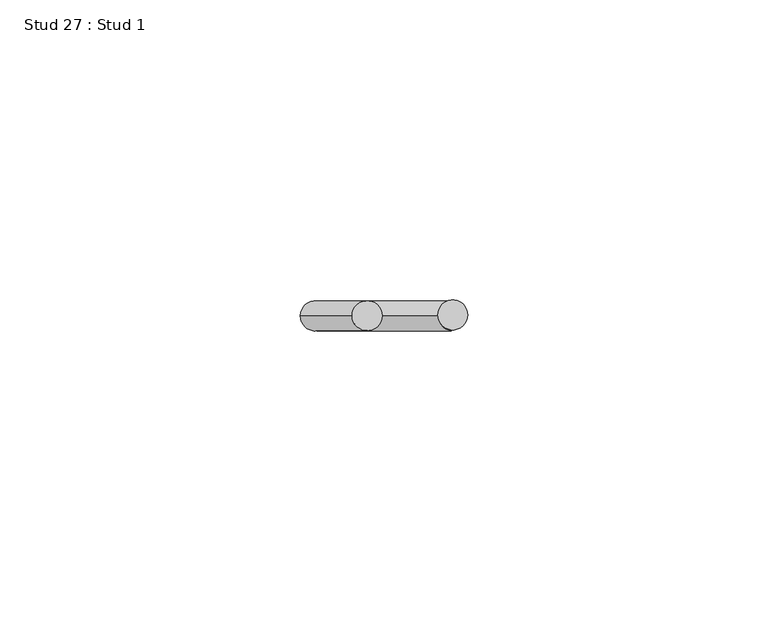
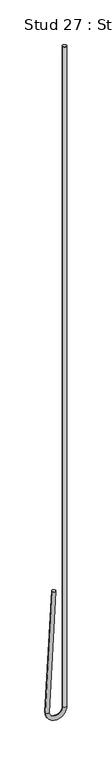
"""IFC4 building model written with IfcOpenShell, lengths in millimetres: proxy geometry, Stud 27 : Stud 1."""

from ifc_helpers import new_model, si_unit, point, frame, origin, place, context, project, spatial, circle_curve, ellipse_curve, trimmed, source, transform, mapped, element, save
from ifc_brep_helpers import plane_surface, cylinder_surface, revolved_surface, advanced_brep


def stud_27_stud_1_aca50336(model_context):
    return source(origin(), model_context, "Body", "AdvancedBrep", [
        advanced_brep(
        [(-13440.3532788, 8353.5191481, 3640.800192), (-13435.3601311, 8353.5191481, 3640.5385122), (-13448.9939451, 8353.5191481, 3475.9264558), (-13444.0007975, 8353.5191481, 3475.664776), (-13426.0920812, 8353.5191481, 3475.7956159), (-13421.0920812, 8353.5191481, 3475.7956159), (-13421.0920812, 8353.5191481, 4390.1956159), (-13426.0920812, 8353.5191481, 4390.1956159)],
        [
            (0, 1, circle_curve(frame((-13437.8567049, 8353.5191481, 3640.6693521), z_axis=(0.05233595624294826, 0.0, 0.9986295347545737), x_axis=(0.9986295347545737, 0.0, -0.05233595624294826)), 2.5)),
            (1, 0, circle_curve(frame((-13437.8567049, 8353.5191481, 3640.6693521), z_axis=(0.05233595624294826, 0.0, 0.9986295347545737), x_axis=(0.9986295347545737, 0.0, -0.05233595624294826)), 2.5)),
            (0, 2),
            (2, 3, circle_curve(frame((-13446.4973713, 8353.5191481, 3475.7956159), z_axis=(0.05233595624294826, 0.0, 0.9986295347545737), x_axis=(0.9986295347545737, 0.0, -0.05233595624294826)), 2.5)),
            (3, 1),
            (3, 2, circle_curve(frame((-13446.4973713, 8353.5191481, 3475.7956159), z_axis=(0.05233595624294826, 0.0, 0.9986295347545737), x_axis=(0.9986295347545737, 0.0, -0.05233595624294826)), 2.5)),
            (4, 3, circle_curve(frame((-13435.0447263, 8353.5191481, 3475.7956159), z_axis=(0.0, 1.0, 0.0), x_axis=(-1.0, 0.0, 0.0)), 8.952645)),
            (2, 5, circle_curve(frame((-13435.0447263, 8353.5191481, 3475.7956159), z_axis=(0.0, -1.0, 0.0), x_axis=(-1.0, 0.0, 0.0)), 13.952645)),
            (5, 4, circle_curve(frame((-13423.5920812, 8353.5191481, 3475.7956159), z_axis=(0.0, 0.0, -1.0), x_axis=(-1.0, 0.0, 0.0)), 2.5)),
            (4, 5, circle_curve(frame((-13423.5920812, 8353.5191481, 3475.7956159), z_axis=(0.0, 0.0, -1.0), x_axis=(-1.0, 0.0, 0.0)), 2.5)),
            (6, 7, circle_curve(frame((-13423.5920812, 8353.5191481, 4390.1956159), z_axis=(0.0, 0.0, 1.0), x_axis=(-1.0, 0.0, 0.0)), 2.5)),
            (7, 6, circle_curve(frame((-13423.5920812, 8353.5191481, 4390.1956159), z_axis=(0.0, 0.0, 1.0), x_axis=(-1.0, 0.0, 0.0)), 2.5)),
            (5, 6),
            (7, 4),
        ],
        [
            plane_surface(frame((-13437.8567049, 8947.2441481, 3640.6693521), z_axis=(0.05233595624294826, 0.0, 0.9986295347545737), x_axis=(0.0, -1.0, 0.0))),
            cylinder_surface(frame((-13437.8567049, 8353.5191481, 3640.6693521), z_axis=(0.05233595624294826, 0.0, 0.9986295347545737), x_axis=(0.9986295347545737, 0.0, -0.05233595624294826)), 2.5),
            revolved_surface(trimmed(ellipse_curve(frame((-13446.4973713, 8353.5191481, 3475.7956159), z_axis=(0.0, 0.0, 1.0), x_axis=(1.0, 0.0, 0.0)), 2.5, 2.5), [point((-13448.9973713, 8353.5191481, 3475.7956159))], [point((-13443.9973713, 8353.5191481, 3475.7956159))], True, "CARTESIAN"), (-13435.0447263, 8947.2441481, 3475.7956159), (0.0, -1.0, 0.0)),
            revolved_surface(trimmed(ellipse_curve(frame((-13446.4973713, 8353.5191481, 3475.7956159), z_axis=(0.0, 0.0, 1.0), x_axis=(1.0, 0.0, 0.0)), 2.5, 2.5), [point((-13443.9973713, 8353.5191481, 3475.7956159))], [point((-13448.9973713, 8353.5191481, 3475.7956159))], True, "CARTESIAN"), (-13435.0447263, 8947.2441481, 3475.7956159), (0.0, -1.0, 0.0)),
            plane_surface(frame((-13423.5920812, 8947.2441481, 4390.1956159), z_axis=(0.0, 0.0, 1.0), x_axis=(0.0, -1.0, 0.0))),
            cylinder_surface(frame((-13423.5920812, 8353.5191481, 3475.7956159), z_axis=(0.0, 0.0, -1.0), x_axis=(-1.0, 0.0, 0.0)), 2.5),
        ],
        [
            (0, [[1, 2]]),
            (1, [[-1, 3, 4, 5]]),
            (1, [[-2, -5, 6, -3]]),
            (2, [[7, -4, 8, 9]]),
            (3, [[-8, -6, -7, 10]]),
            (4, [[11, 12]]),
            (5, [[-9, 13, -12, 14]]),
            (5, [[-10, -14, -11, -13]]),
        ],
    ),
    ])


if __name__ == "__main__":
    model = new_model("IFC4")
    model_context = context("Model", 3, world=origin())
    ifc_project = project(units=[si_unit("LENGTHUNIT", "METRE", prefix="MILLI")], contexts=[model_context])
    site = spatial("IfcSite", under=ifc_project)
    building = spatial("IfcBuilding", under=site)
    placement = place(None, origin())
    stud_27_stud_1_shape = stud_27_stud_1_aca50336(model_context)
    element("IfcBuildingElementProxy", 1, Name="Stud 27 : Stud 1", ObjectType="Stud 27 : Stud 1", at=placement, inside=building, context=model_context, shape_type="MappedRepresentation", body=[
        mapped(stud_27_stud_1_shape, transform((0.0, 0.0, 0.0), x_axis=(1.0, 0.0, 0.0), y_axis=(0.0, 1.0, 0.0), z_axis=(0.0, 0.0, 1.0))),
    ])
    save(model, "model.ifc")
